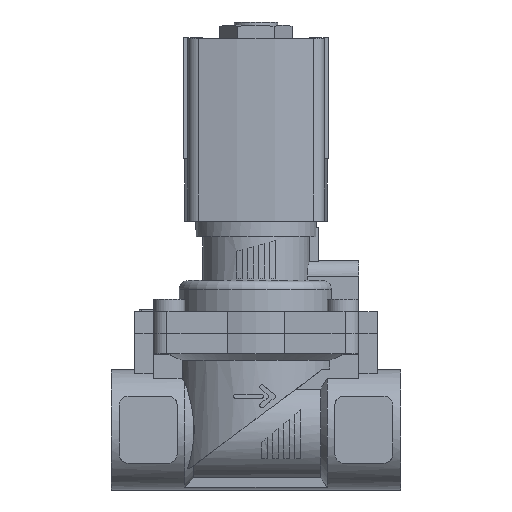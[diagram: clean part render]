
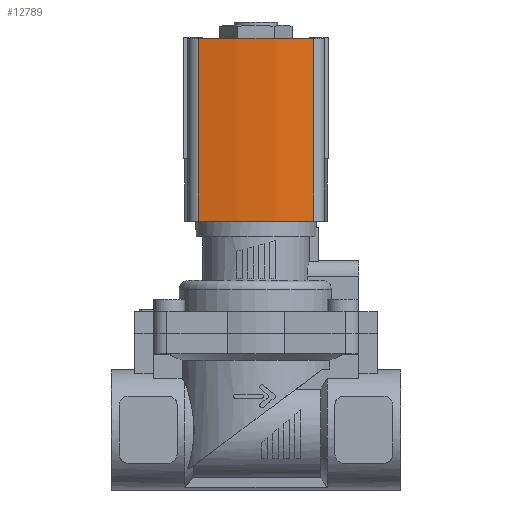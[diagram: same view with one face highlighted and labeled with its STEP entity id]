
A CAD part, top view. The second image highlights one B-rep face of the part: STEP entity #12789.
In plain terms, the highlighted cylindrical face has radius 60 mm (diameter 120 mm), a partial arc.
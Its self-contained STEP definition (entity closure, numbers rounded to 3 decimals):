
#241=CYLINDRICAL_SURFACE('',#13663,60.);
#1240=LINE('',#19589,#2324);
#1241=LINE('',#19593,#2325);
#2324=VECTOR('',#16228,1000.);
#2325=VECTOR('',#16233,1000.);
#4709=ORIENTED_EDGE('',*,*,#6736,.T.);
#4710=ORIENTED_EDGE('',*,*,#6737,.F.);
#4711=ORIENTED_EDGE('',*,*,#6022,.F.);
#4712=ORIENTED_EDGE('',*,*,#6735,.T.);
#6022=EDGE_CURVE('',#7286,#7287,#8021,.T.);
#6735=EDGE_CURVE('',#7286,#7792,#1240,.T.);
#6736=EDGE_CURVE('',#7792,#7793,#8115,.T.);
#6737=EDGE_CURVE('',#7287,#7793,#1241,.T.);
#7286=VERTEX_POINT('',#18243);
#7287=VERTEX_POINT('',#18245);
#7792=VERTEX_POINT('',#19588);
#7793=VERTEX_POINT('',#19592);
#8021=CIRCLE('',#13443,60.);
#8115=CIRCLE('',#13664,60.);
#8552=EDGE_LOOP('',(#4709,#4710,#4711,#4712));
#9144=FACE_BOUND('',#8552,.T.);
#12789=ADVANCED_FACE('',(#9144),#241,.T.);
#13443=AXIS2_PLACEMENT_3D('',#18244,#15169,#15170);
#13663=AXIS2_PLACEMENT_3D('',#19590,#16229,#16230);
#13664=AXIS2_PLACEMENT_3D('',#19591,#16231,#16232);
#15169=DIRECTION('',(0.,1.,0.));
#15170=DIRECTION('',(1.,0.,0.));
#16228=DIRECTION('',(0.,-1.,0.));
#16229=DIRECTION('',(0.,-1.,0.));
#16230=DIRECTION('',(0.,0.,-1.));
#16231=DIRECTION('',(0.,1.,0.));
#16232=DIRECTION('',(1.,0.,0.));
#16233=DIRECTION('',(0.,-1.,0.));
#18243=CARTESIAN_POINT('',(19.078,15.,12.986));
#18244=CARTESIAN_POINT('',(-39.5,15.,0.));
#18245=CARTESIAN_POINT('',(19.078,15.,-12.986));
#19588=CARTESIAN_POINT('',(19.078,-26.,12.986));
#19589=CARTESIAN_POINT('',(19.078,15.,12.986));
#19590=CARTESIAN_POINT('',(-39.5,15.,0.));
#19591=CARTESIAN_POINT('',(-39.5,-26.,0.));
#19592=CARTESIAN_POINT('',(19.078,-26.,-12.986));
#19593=CARTESIAN_POINT('',(19.078,15.,-12.986));
